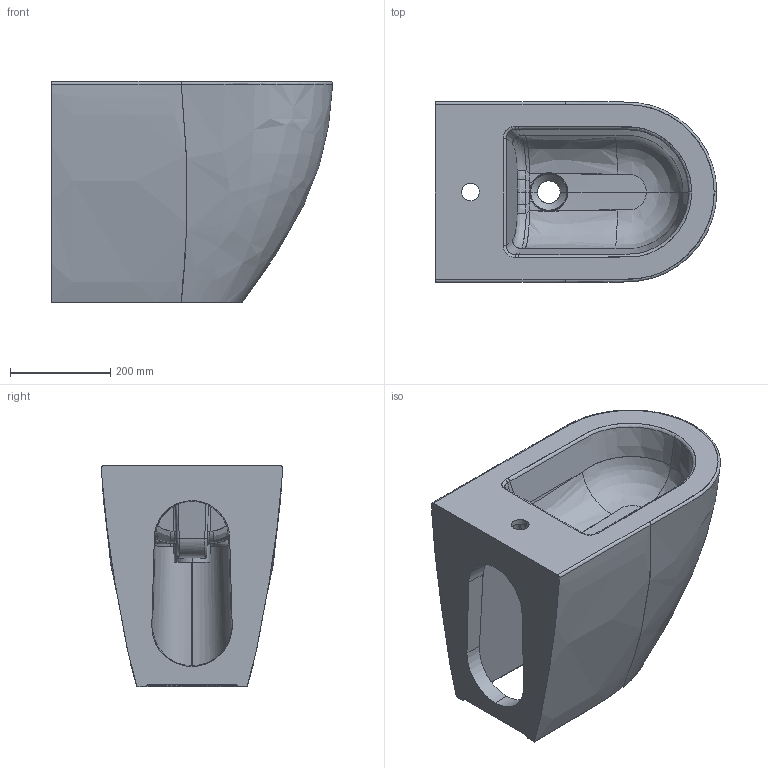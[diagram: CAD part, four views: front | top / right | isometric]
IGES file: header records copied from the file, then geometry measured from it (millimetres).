
Start section: START RECORD GO HERE.
Global section: file name: 7311.igs; native system: DASSAULT SYSTEMES CATIA V5 R19 - www.3ds.com; preprocessor: CATIA Version 5 Release 19 SP 5 ; author: gioge; organization: LAPTOP-G94B6G74; date: 20201002.162743; units: millimetre
Bounding box: 559.83 x 359.66 x 439.99 mm (x, y, z)
Surface area: 1296983.6 mm2 (no closed solid volume)
Topology: 0 solids, 0 shells, 198 faces, 956 edges, 954 vertices
Faces by surface type: bspline 142, revolution 35, plane 13, extrusion 8
